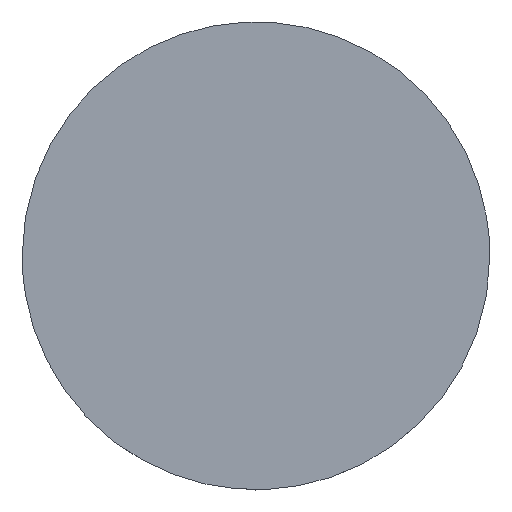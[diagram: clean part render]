
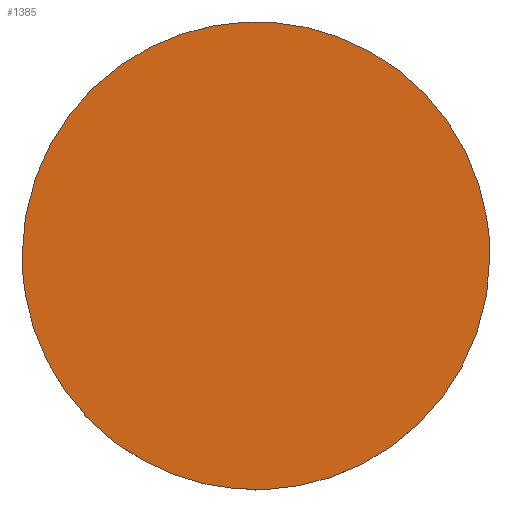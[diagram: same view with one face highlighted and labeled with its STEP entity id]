
A CAD part, top view. The second image highlights one B-rep face of the part: STEP entity #1385.
In plain terms, the highlighted planar face has unit normal (0, 0, 1).
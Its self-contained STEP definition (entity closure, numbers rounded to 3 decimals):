
#1385=ADVANCED_FACE('',(#1869),#7476,.T.);
#1869=FACE_OUTER_BOUND('',#2369,.T.);
#2369=EDGE_LOOP('',(#4596,#4597));
#4596=ORIENTED_EDGE('',*,*,#5888,.F.);
#4597=ORIENTED_EDGE('',*,*,#5884,.F.);
#5884=EDGE_CURVE('',#7324,#7326,#6466,.T.);
#5888=EDGE_CURVE('',#7326,#7324,#6470,.T.);
#6466=(
BOUNDED_CURVE()
B_SPLINE_CURVE(2,(#53285,#53286,#53287,#53288,#53289),.UNSPECIFIED.,.F.,
 .F.)
B_SPLINE_CURVE_WITH_KNOTS((3,2,3),(0.,1178.097,2356.194),
 .UNSPECIFIED.)
CURVE()
GEOMETRIC_REPRESENTATION_ITEM()
RATIONAL_B_SPLINE_CURVE((1.,0.707,1.,0.707,1.))
REPRESENTATION_ITEM('')
);
#6470=(
BOUNDED_CURVE()
B_SPLINE_CURVE(2,(#53299,#53300,#53301,#53302,#53303),.UNSPECIFIED.,.F.,
 .F.)
B_SPLINE_CURVE_WITH_KNOTS((3,2,3),(2356.194,3534.292,4712.389),
 .UNSPECIFIED.)
CURVE()
GEOMETRIC_REPRESENTATION_ITEM()
RATIONAL_B_SPLINE_CURVE((1.,0.707,1.,0.707,1.))
REPRESENTATION_ITEM('')
);
#7324=VERTEX_POINT('',#53281);
#7326=VERTEX_POINT('',#53283);
#7476=PLANE('',#8301);
#8301=AXIS2_PLACEMENT_3D('',#53278,#8749,$);
#8749=DIRECTION('',(0.,0.,1.));
#53278=CARTESIAN_POINT('',(4370.733,-13231.175,730.));
#53281=CARTESIAN_POINT('',(6058.233,-14168.675,730.));
#53283=CARTESIAN_POINT('',(4558.233,-14168.675,730.));
#53285=CARTESIAN_POINT('',(6058.233,-14168.675,730.));
#53286=CARTESIAN_POINT('',(6058.233,-14918.675,730.));
#53287=CARTESIAN_POINT('',(5308.233,-14918.675,730.));
#53288=CARTESIAN_POINT('',(4558.233,-14918.675,730.));
#53289=CARTESIAN_POINT('',(4558.233,-14168.675,730.));
#53299=CARTESIAN_POINT('',(4558.233,-14168.675,730.));
#53300=CARTESIAN_POINT('',(4558.233,-13418.675,730.));
#53301=CARTESIAN_POINT('',(5308.233,-13418.675,730.));
#53302=CARTESIAN_POINT('',(6058.233,-13418.675,730.));
#53303=CARTESIAN_POINT('',(6058.233,-14168.675,730.));
